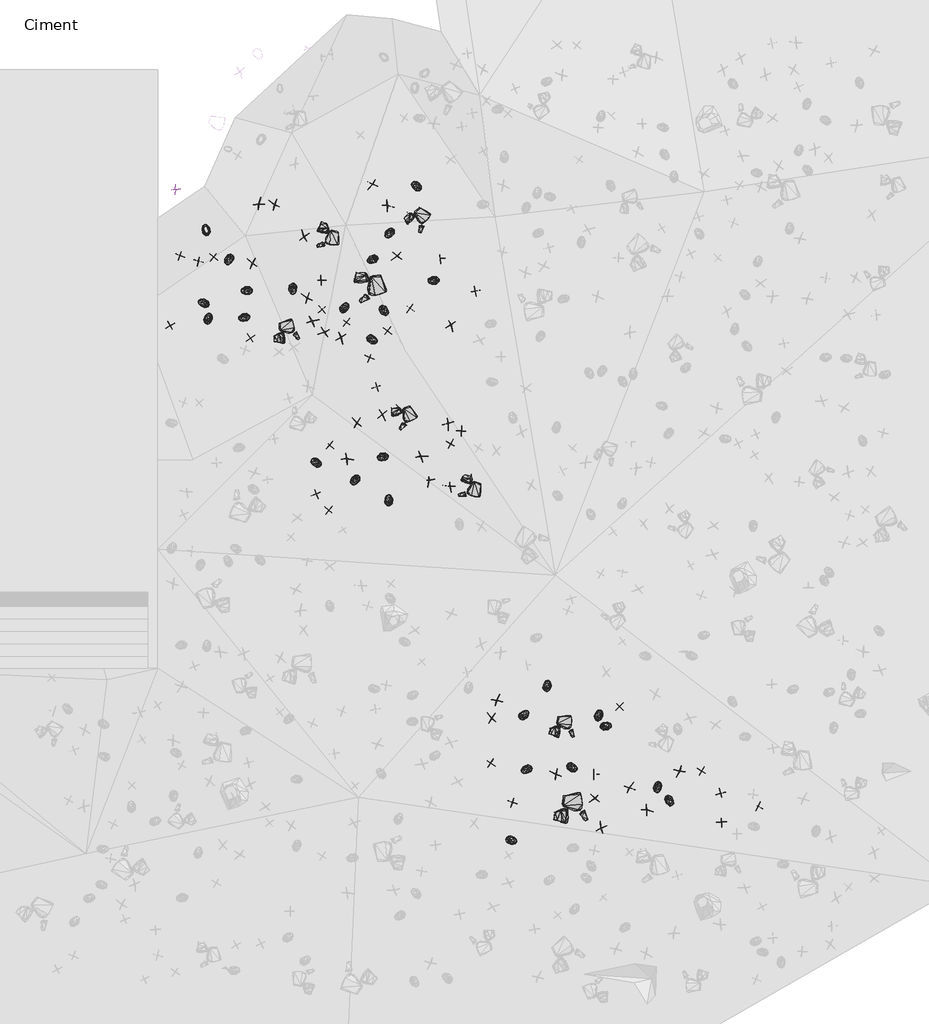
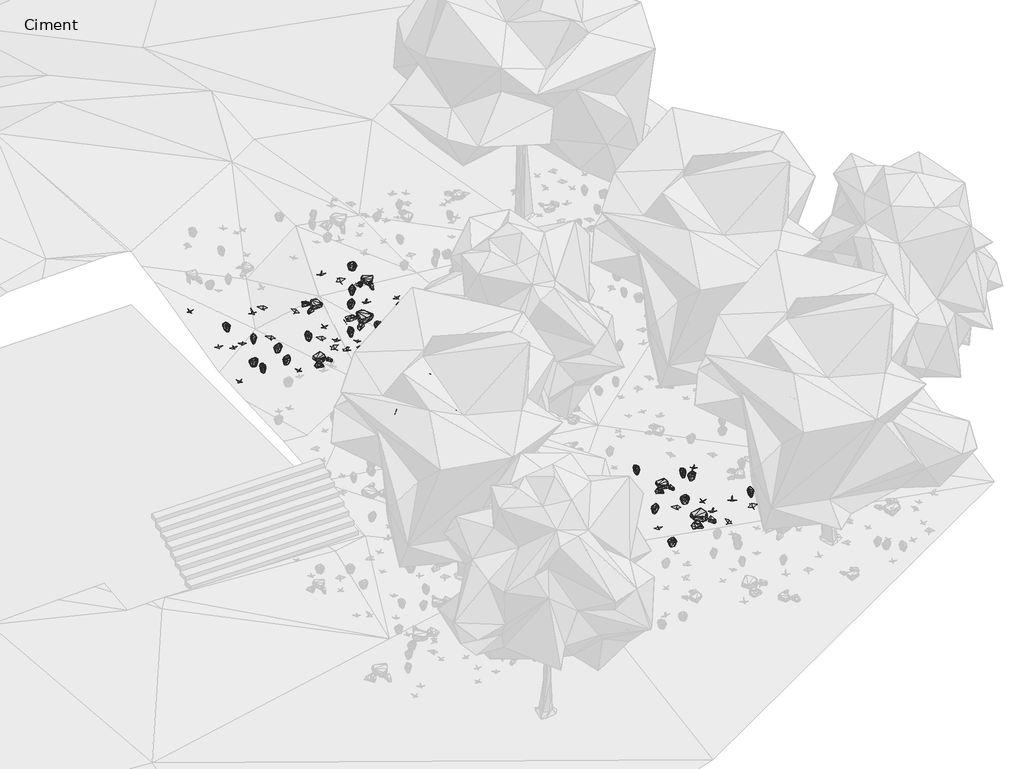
# One storey, part 16 of 30: 90 geographic elements.
"""IFC4 building model written with IfcOpenShell, lengths in millimetres."""

from ifc_helpers import new_model, si_unit, origin, place, context, project, spatial, transform, mapped, element, save
from components import enscape_assetdefinition_bush_025_fern_enscape_5718bf32, enscape_assetdefinition_bush_054_plant_09_version_2_enscape_7b546a12, enscape_assetdefinition_bush_062_plant_09_version_3_enscape_ccf8c8eb, enscape_assetdefinition_stone_013_group_enscape_516da325, enscape_assetdefinition_stone_013_group_enscape_db9b3e91

model = new_model("IFC4")

# Units and contexts
model_context = context("Model", 3, world=origin())
ifc_project = project(units=[si_unit("LENGTHUNIT", "METRE", prefix="MILLI")], contexts=[model_context])

# Site, building, storey
site = spatial("IfcSite", under=ifc_project)
building = spatial("IfcBuilding", under=site)
storey = spatial("IfcBuildingStorey", under=building, Name="Ciment", Elevation=-1500.0)

# Geographic elements
placement = place(None, origin())
enscape_assetdefinition_bush_025_fern_enscape_shape = enscape_assetdefinition_bush_025_fern_enscape_5718bf32(model_context)
element("IfcGeographicElement", 1, ObjectType="Enscape AssetDefinition - Bush 025 Fern : Enscape AssetDefinition - Bush 025 Fern", at=placement, inside=storey, context=model_context, shape_type="MappedRepresentation", body=[
    mapped(enscape_assetdefinition_bush_025_fern_enscape_shape, transform((10016.7827606, -1964.5595551, -765.6151056), x_axis=(-0.38445639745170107, -0.9231431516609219, 0.0), y_axis=(0.9231431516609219, -0.38445639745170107, 0.0), z_axis=(0.0, 0.0, 1.0))),
])
element("IfcGeographicElement", 2, ObjectType="Enscape AssetDefinition - Bush 025 Fern : Enscape AssetDefinition - Bush 025 Fern", at=placement, inside=storey, context=model_context, shape_type="MappedRepresentation", body=[
    mapped(enscape_assetdefinition_bush_025_fern_enscape_shape, transform((17686.5139008, -12217.6494598, -2132.6255798), x_axis=(0.09281831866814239, 0.9956830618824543, 0.0), y_axis=(-0.9956830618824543, 0.09281831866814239, 0.0), z_axis=(0.0, 0.0, 1.0))),
])
element("IfcGeographicElement", 3, ObjectType="Enscape AssetDefinition - Bush 025 Fern : Enscape AssetDefinition - Bush 025 Fern", at=placement, inside=storey, context=model_context, shape_type="MappedRepresentation", body=[
    mapped(enscape_assetdefinition_bush_025_fern_enscape_shape, transform((9470.8423615, -1239.1834259, -558.8148832), x_axis=(-0.35759758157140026, 0.9338757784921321, 0.0), y_axis=(-0.9338757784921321, -0.35759758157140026, 0.0), z_axis=(0.0, 0.0, 1.0))),
])
element("IfcGeographicElement", 4, ObjectType="Enscape AssetDefinition - Bush 025 Fern : Enscape AssetDefinition - Bush 025 Fern", at=placement, inside=storey, context=model_context, shape_type="MappedRepresentation", body=[
    mapped(enscape_assetdefinition_bush_025_fern_enscape_shape, transform((20619.0090179, -14994.1196442, -2462.1767998), x_axis=(0.5860406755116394, -0.8102816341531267, 0.0), y_axis=(0.8102816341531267, 0.5860406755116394, 0.0), z_axis=(0.0, 0.0, 1.0))),
])
element("IfcGeographicElement", 5, ObjectType="Enscape AssetDefinition - Bush 025 Fern : Enscape AssetDefinition - Bush 025 Fern", at=placement, inside=storey, context=model_context, shape_type="MappedRepresentation", body=[
    mapped(enscape_assetdefinition_bush_025_fern_enscape_shape, transform((13878.0612946, -1331.905365, -671.5577841), x_axis=(-0.5221447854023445, -0.8528568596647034, 0.0), y_axis=(0.8528568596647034, -0.5221447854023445, 0.0), z_axis=(0.0, 0.0, 1.0))),
])
element("IfcGeographicElement", 6, ObjectType="Enscape AssetDefinition - Bush 025 Fern : Enscape AssetDefinition - Bush 025 Fern", at=placement, inside=storey, context=model_context, shape_type="MappedRepresentation", body=[
    mapped(enscape_assetdefinition_bush_025_fern_enscape_shape, transform((11556.7264557, -2672.2145081, -778.2021761), x_axis=(0.13920330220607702, -0.9902638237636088, 0.0), y_axis=(0.9902638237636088, 0.13920330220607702, 0.0), z_axis=(0.0, 0.0, 1.0))),
])
element("IfcGeographicElement", 7, ObjectType="Enscape AssetDefinition - Bush 025 Fern : Enscape AssetDefinition - Bush 025 Fern", at=placement, inside=storey, context=model_context, shape_type="MappedRepresentation", body=[
    mapped(enscape_assetdefinition_bush_025_fern_enscape_shape, transform((12116.2090302, -6842.8611755, -1207.5036764), x_axis=(-0.9063901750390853, 0.4224415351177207, 0.0), y_axis=(-0.4224415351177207, -0.9063901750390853, 0.0), z_axis=(0.0, 0.0, 1.0))),
])
element("IfcGeographicElement", 8, ObjectType="Enscape AssetDefinition - Bush 025 Fern : Enscape AssetDefinition - Bush 025 Fern", at=placement, inside=storey, context=model_context, shape_type="MappedRepresentation", body=[
    mapped(enscape_assetdefinition_bush_025_fern_enscape_shape, transform((13754.4879913, -3197.7136135, -843.0160284), x_axis=(0.7146178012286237, -0.6995151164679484, 0.0), y_axis=(0.6995151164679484, 0.7146178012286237, 0.0), z_axis=(0.0, 0.0, 1.0))),
])
element("IfcGeographicElement", 9, ObjectType="Enscape AssetDefinition - Bush 025 Fern : Enscape AssetDefinition - Bush 025 Fern", at=placement, inside=storey, context=model_context, shape_type="MappedRepresentation", body=[
    mapped(enscape_assetdefinition_bush_025_fern_enscape_shape, transform((17176.908493, -14231.2450409, -2210.5765343), x_axis=(-0.8233271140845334, -0.5675671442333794, 0.0), y_axis=(0.5675671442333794, -0.8233271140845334, 0.0), z_axis=(0.0, 0.0, 1.0))),
])
element("IfcGeographicElement", 10, ObjectType="Enscape AssetDefinition - Bush 025 Fern : Enscape AssetDefinition - Bush 025 Fern", at=placement, inside=storey, context=model_context, shape_type="MappedRepresentation", body=[
    mapped(enscape_assetdefinition_bush_025_fern_enscape_shape, transform((13469.3279266, -1958.5016966, -674.3084192), x_axis=(-0.8565467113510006, -0.5160695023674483, 0.0), y_axis=(0.5160695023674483, -0.8565467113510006, 0.0), z_axis=(0.0, 0.0, 1.0))),
])
element("IfcGeographicElement", 11, ObjectType="Enscape AssetDefinition - Bush 025 Fern : Enscape AssetDefinition - Bush 025 Fern", at=placement, inside=storey, context=model_context, shape_type="MappedRepresentation", body=[
    mapped(enscape_assetdefinition_bush_025_fern_enscape_shape, transform((14938.577652, -2462.3088837, -937.5931025), x_axis=(-0.9737539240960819, -0.22760337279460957, 0.0), y_axis=(0.22760337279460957, -0.9737539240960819, 0.0), z_axis=(0.0, 0.0, 1.0))),
])
element("IfcGeographicElement", 12, ObjectType="Enscape AssetDefinition - Bush 025 Fern : Enscape AssetDefinition - Bush 025 Fern", at=placement, inside=storey, context=model_context, shape_type="MappedRepresentation", body=[
    mapped(enscape_assetdefinition_bush_025_fern_enscape_shape, transform((18925.9738922, -12927.4616241, -2246.7951775), x_axis=(0.19850457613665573, 0.9800999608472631, 0.0), y_axis=(-0.9800999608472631, 0.19850457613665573, 0.0), z_axis=(0.0, 0.0, 1.0))),
])
element("IfcGeographicElement", 13, ObjectType="Enscape AssetDefinition - Bush 025 Fern : Enscape AssetDefinition - Bush 025 Fern", at=placement, inside=storey, context=model_context, shape_type="MappedRepresentation", body=[
    mapped(enscape_assetdefinition_bush_025_fern_enscape_shape, transform((14533.2279205, -184.5550537, -695.3164339), x_axis=(-0.8508851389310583, 0.5253517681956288, 0.0), y_axis=(-0.5253517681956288, -0.8508851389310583, 0.0), z_axis=(0.0, 0.0, 1.0))),
])
element("IfcGeographicElement", 14, ObjectType="Enscape AssetDefinition - Bush 025 Fern : Enscape AssetDefinition - Bush 025 Fern", at=placement, inside=storey, context=model_context, shape_type="MappedRepresentation", body=[
    mapped(enscape_assetdefinition_bush_025_fern_enscape_shape, transform((13470.8271027, -3890.9647465, -917.8999662), x_axis=(0.9269066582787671, -0.37529194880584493, 0.0), y_axis=(0.37529194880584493, 0.9269066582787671, 0.0), z_axis=(0.0, 0.0, 1.0))),
])
element("IfcGeographicElement", 15, ObjectType="Enscape AssetDefinition - Bush 025 Fern : Enscape AssetDefinition - Bush 025 Fern", at=placement, inside=storey, context=model_context, shape_type="MappedRepresentation", body=[
    mapped(enscape_assetdefinition_bush_025_fern_enscape_shape, transform((16821.641922, -15942.3770905, -2302.3045063), x_axis=(0.9842999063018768, -0.1765040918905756, 0.0), y_axis=(0.1765040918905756, 0.9842999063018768, 0.0), z_axis=(0.0, 0.0, 1.0))),
])
element("IfcGeographicElement", 16, ObjectType="Enscape AssetDefinition - Bush 025 Fern : Enscape AssetDefinition - Bush 025 Fern", at=placement, inside=storey, context=model_context, shape_type="MappedRepresentation", body=[
    mapped(enscape_assetdefinition_bush_025_fern_enscape_shape, transform((19103.2848358, -13192.2512054, -2271.9707489), x_axis=(0.9592102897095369, 0.28269350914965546, 0.0), y_axis=(-0.28269350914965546, 0.9592102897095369, 0.0), z_axis=(0.0, 0.0, 1.0))),
])
element("IfcGeographicElement", 17, ObjectType="Enscape AssetDefinition - Bush 025 Fern : Enscape AssetDefinition - Bush 025 Fern", at=placement, inside=storey, context=model_context, shape_type="MappedRepresentation", body=[
    mapped(enscape_assetdefinition_bush_025_fern_enscape_shape, transform((10443.985939, -2705.1846981, -817.9252148), x_axis=(-0.9789633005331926, -0.20403640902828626, 0.0), y_axis=(0.20403640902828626, -0.9789633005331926, 0.0), z_axis=(0.0, 0.0, 1.0))),
])
element("IfcGeographicElement", 18, ObjectType="Enscape AssetDefinition - Bush 025 Fern : Enscape AssetDefinition - Bush 025 Fern", at=placement, inside=storey, context=model_context, shape_type="MappedRepresentation", body=[
    mapped(enscape_assetdefinition_bush_025_fern_enscape_shape, transform((18282.7339172, -14189.3482208, -2275.860548), x_axis=(0.9132288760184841, -0.40744695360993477, 0.0), y_axis=(0.40744695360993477, 0.9132288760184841, 0.0), z_axis=(0.0, 0.0, 1.0))),
])
element("IfcGeographicElement", 19, ObjectType="Enscape AssetDefinition - Bush 025 Fern : Enscape AssetDefinition - Bush 025 Fern", at=placement, inside=storey, context=model_context, shape_type="MappedRepresentation", body=[
    mapped(enscape_assetdefinition_bush_025_fern_enscape_shape, transform((13714.9600983, -6711.0843658, -1318.4001446), x_axis=(-0.9466021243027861, -0.32240412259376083, 0.0), y_axis=(0.32240412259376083, -0.9466021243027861, 0.0), z_axis=(0.0, 0.0, 1.0))),
])
element("IfcGeographicElement", 20, ObjectType="Enscape AssetDefinition - Bush 025 Fern : Enscape AssetDefinition - Bush 025 Fern", at=placement, inside=storey, context=model_context, shape_type="MappedRepresentation", body=[
    mapped(enscape_assetdefinition_bush_025_fern_enscape_shape, transform((12805.8414459, -3117.6567078, -767.7301168), x_axis=(0.47292923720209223, 0.8811004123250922, 0.0), y_axis=(-0.8811004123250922, 0.47292923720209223, 0.0), z_axis=(0.0, 0.0, 1.0))),
])
element("IfcGeographicElement", 21, ObjectType="Enscape AssetDefinition - Bush 025 Fern : Enscape AssetDefinition - Bush 025 Fern", at=placement, inside=storey, context=model_context, shape_type="MappedRepresentation", body=[
    mapped(enscape_assetdefinition_bush_025_fern_enscape_shape, transform((9527.2006989, -3379.4136047, -820.2050924), x_axis=(0.19123822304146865, 0.9815436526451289, 0.0), y_axis=(-0.9815436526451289, 0.19123822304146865, 0.0), z_axis=(0.0, 0.0, 1.0))),
])
element("IfcGeographicElement", 22, ObjectType="Enscape AssetDefinition - Bush 025 Fern : Enscape AssetDefinition - Bush 025 Fern", at=placement, inside=storey, context=model_context, shape_type="MappedRepresentation", body=[
    mapped(enscape_assetdefinition_bush_025_fern_enscape_shape, transform((13872.7893829, -7746.1342812, -1458.5523605), x_axis=(-0.13486933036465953, 0.9908633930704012, 0.0), y_axis=(-0.9908633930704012, -0.13486933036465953, 0.0), z_axis=(0.0, 0.0, 1.0))),
])
element("IfcGeographicElement", 23, ObjectType="Enscape AssetDefinition - Bush 025 Fern : Enscape AssetDefinition - Bush 025 Fern", at=placement, inside=storey, context=model_context, shape_type="MappedRepresentation", body=[
    mapped(enscape_assetdefinition_bush_025_fern_enscape_shape, transform((13050.2300262, -7270.2636719, -1334.4722986), x_axis=(-0.5542169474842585, -0.8323722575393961, 0.0), y_axis=(0.8323722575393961, -0.5542169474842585, 0.0), z_axis=(0.0, 0.0, 1.0))),
])
element("IfcGeographicElement", 24, ObjectType="Enscape AssetDefinition - Bush 025 Fern : Enscape AssetDefinition - Bush 025 Fern", at=placement, inside=storey, context=model_context, shape_type="MappedRepresentation", body=[
    mapped(enscape_assetdefinition_bush_025_fern_enscape_shape, transform((9411.4170074, -3004.5049191, -797.2145081), x_axis=(-0.9661915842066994, 0.25782517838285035, 0.0), y_axis=(-0.25782517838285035, -0.9661915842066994, 0.0), z_axis=(0.0, 0.0, 1.0))),
])
element("IfcGeographicElement", 25, ObjectType="Enscape AssetDefinition - Bush 025 Fern : Enscape AssetDefinition - Bush 025 Fern", at=placement, inside=storey, context=model_context, shape_type="MappedRepresentation", body=[
    mapped(enscape_assetdefinition_bush_025_fern_enscape_shape, transform((10379.4841766, -3354.6352386, -848.5469818), x_axis=(-0.9400152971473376, -0.3411322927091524, 0.0), y_axis=(0.3411322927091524, -0.9400152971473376, 0.0), z_axis=(0.0, 0.0, 1.0))),
])
element("IfcGeographicElement", 26, ObjectType="Enscape AssetDefinition - Bush 025 Fern : Enscape AssetDefinition - Bush 025 Fern", at=placement, inside=storey, context=model_context, shape_type="MappedRepresentation", body=[
    mapped(enscape_assetdefinition_bush_025_fern_enscape_shape, transform((17128.4275055, -12920.3691483, -2136.6004944), x_axis=(0.6698688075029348, 0.7424794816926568, 0.0), y_axis=(-0.7424794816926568, 0.6698688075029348, 0.0), z_axis=(0.0, 0.0, 1.0))),
])
element("IfcGeographicElement", 27, ObjectType="Enscape AssetDefinition - Bush 025 Fern : Enscape AssetDefinition - Bush 025 Fern", at=placement, inside=storey, context=model_context, shape_type="MappedRepresentation", body=[
    mapped(enscape_assetdefinition_bush_025_fern_enscape_shape, transform((20331.6364288, -14663.9909744, -2426.7377853), x_axis=(-0.11735260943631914, -0.9930903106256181, 0.0), y_axis=(0.9930903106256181, -0.11735260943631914, 0.0), z_axis=(0.0, 0.0, 1.0))),
])
enscape_assetdefinition_bush_054_plant_09_version_2_enscape_shape = enscape_assetdefinition_bush_054_plant_09_version_2_enscape_7b546a12(model_context)
element("IfcGeographicElement", 28, ObjectType="Enscape AssetDefinition - Bush 054 Plant 09, Version 2 : Enscape AssetDefinition - Bush 054 Plant 09, Version 2", at=placement, inside=storey, context=model_context, shape_type="MappedRepresentation", body=[
    mapped(enscape_assetdefinition_bush_054_plant_09_version_2_enscape_shape, transform((14384.759903, -3134.7694397, -923.8218069), x_axis=(-0.8412617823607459, 0.5406279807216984, 0.0), y_axis=(-0.5406279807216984, -0.8412617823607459, 0.0), z_axis=(0.0, 0.0, 1.0))),
])
element("IfcGeographicElement", 29, ObjectType="Enscape AssetDefinition - Bush 054 Plant 09, Version 2 : Enscape AssetDefinition - Bush 054 Plant 09, Version 2", at=placement, inside=storey, context=model_context, shape_type="MappedRepresentation", body=[
    mapped(enscape_assetdefinition_bush_054_plant_09_version_2_enscape_shape, transform((9292.8981781, -2002.4871826, -713.7041092), x_axis=(0.1669795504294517, 0.9859603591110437, 0.0), y_axis=(-0.9859603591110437, 0.1669795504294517, 0.0), z_axis=(0.0, 0.0, 1.0))),
])
element("IfcGeographicElement", 30, ObjectType="Enscape AssetDefinition - Bush 054 Plant 09, Version 2 : Enscape AssetDefinition - Bush 054 Plant 09, Version 2", at=placement, inside=storey, context=model_context, shape_type="MappedRepresentation", body=[
    mapped(enscape_assetdefinition_bush_054_plant_09_version_2_enscape_shape, transform((8601.4499664, -3552.4806976, -796.9938517), x_axis=(0.5575492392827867, -0.8301438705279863, 0.0), y_axis=(0.8301438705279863, 0.5575492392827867, 0.0), z_axis=(0.0, 0.0, 1.0))),
])
element("IfcGeographicElement", 31, ObjectType="Enscape AssetDefinition - Bush 054 Plant 09, Version 2 : Enscape AssetDefinition - Bush 054 Plant 09, Version 2", at=placement, inside=storey, context=model_context, shape_type="MappedRepresentation", body=[
    mapped(enscape_assetdefinition_bush_054_plant_09_version_2_enscape_shape, transform((16849.3824005, -15029.8557281, -2233.8314056), x_axis=(0.26674330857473, 0.963767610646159, 0.0), y_axis=(-0.963767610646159, 0.26674330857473, 0.0), z_axis=(0.0, 0.0, 1.0))),
])
element("IfcGeographicElement", 32, ObjectType="Enscape AssetDefinition - Bush 054 Plant 09, Version 2 : Enscape AssetDefinition - Bush 054 Plant 09, Version 2", at=placement, inside=storey, context=model_context, shape_type="MappedRepresentation", body=[
    mapped(enscape_assetdefinition_bush_054_plant_09_version_2_enscape_shape, transform((21393.8045502, -14274.1336823, -2470.5042839), x_axis=(0.8868748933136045, -0.46200965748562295, 0.0), y_axis=(0.46200965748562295, 0.8868748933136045, 0.0), z_axis=(0.0, 0.0, 1.0))),
])
element("IfcGeographicElement", 33, ObjectType="Enscape AssetDefinition - Bush 054 Plant 09, Version 2 : Enscape AssetDefinition - Bush 054 Plant 09, Version 2", at=placement, inside=storey, context=model_context, shape_type="MappedRepresentation", body=[
    mapped(enscape_assetdefinition_bush_054_plant_09_version_2_enscape_shape, transform((12450.63591, -6427.8202057, -1182.9328537), x_axis=(-0.7751164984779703, 0.6318183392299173, 0.0), y_axis=(-0.6318183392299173, -0.7751164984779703, 0.0), z_axis=(0.0, 0.0, 1.0))),
])
element("IfcGeographicElement", 34, ObjectType="Enscape AssetDefinition - Bush 054 Plant 09, Version 2 : Enscape AssetDefinition - Bush 054 Plant 09, Version 2", at=placement, inside=storey, context=model_context, shape_type="MappedRepresentation", body=[
    mapped(enscape_assetdefinition_bush_054_plant_09_version_2_enscape_shape, transform((18808.7329865, -14349.6341705, -2316.6761398), x_axis=(-0.9981650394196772, -0.06055207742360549, 0.0), y_axis=(0.06055207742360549, -0.9981650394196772, 0.0), z_axis=(0.0, 0.0, 1.0))),
])
element("IfcGeographicElement", 35, ObjectType="Enscape AssetDefinition - Bush 054 Plant 09, Version 2 : Enscape AssetDefinition - Bush 054 Plant 09, Version 2", at=placement, inside=storey, context=model_context, shape_type="MappedRepresentation", body=[
    mapped(enscape_assetdefinition_bush_054_plant_09_version_2_enscape_shape, transform((12262.052536, -3168.8404083, -764.7322416), x_axis=(0.7185125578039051, 0.6955139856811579, 0.0), y_axis=(-0.6955139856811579, 0.7185125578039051, 0.0), z_axis=(0.0, 0.0, 1.0))),
])
element("IfcGeographicElement", 36, ObjectType="Enscape AssetDefinition - Bush 054 Plant 09, Version 2 : Enscape AssetDefinition - Bush 054 Plant 09, Version 2", at=placement, inside=storey, context=model_context, shape_type="MappedRepresentation", body=[
    mapped(enscape_assetdefinition_bush_054_plant_09_version_2_enscape_shape, transform((15351.4652252, -6400.4421234, -1391.7546272), x_axis=(0.8992081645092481, -0.4375210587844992, 0.0), y_axis=(0.4375210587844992, 0.8992081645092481, 0.0), z_axis=(0.0, 0.0, 1.0))),
])
element("IfcGeographicElement", 37, ObjectType="Enscape AssetDefinition - Bush 054 Plant 09, Version 2 : Enscape AssetDefinition - Bush 054 Plant 09, Version 2", at=placement, inside=storey, context=model_context, shape_type="MappedRepresentation", body=[
    mapped(enscape_assetdefinition_bush_054_plant_09_version_2_enscape_shape, transform((13411.7412567, -4319.978714, -972.1491337), x_axis=(0.30507378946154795, 0.9523287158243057, 0.0), y_axis=(-0.9523287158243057, 0.30507378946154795, 0.0), z_axis=(0.0, 0.0, 1.0))),
])
element("IfcGeographicElement", 38, ObjectType="Enscape AssetDefinition - Bush 054 Plant 09, Version 2 : Enscape AssetDefinition - Bush 054 Plant 09, Version 2", at=placement, inside=storey, context=model_context, shape_type="MappedRepresentation", body=[
    mapped(enscape_assetdefinition_bush_054_plant_09_version_2_enscape_shape, transform((10534.3074799, -3854.9556732, -879.2390823), x_axis=(0.6236093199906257, -0.7817361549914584, 0.0), y_axis=(0.7817361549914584, 0.6236093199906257, 0.0), z_axis=(0.0, 0.0, 1.0))),
])
element("IfcGeographicElement", 39, ObjectType="Enscape AssetDefinition - Bush 054 Plant 09, Version 2 : Enscape AssetDefinition - Bush 054 Plant 09, Version 2", at=placement, inside=storey, context=model_context, shape_type="MappedRepresentation", body=[
    mapped(enscape_assetdefinition_bush_054_plant_09_version_2_enscape_shape, transform((12118.6733246, -7604.9385071, -1301.648736), x_axis=(0.917904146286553, 0.396802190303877, 0.0), y_axis=(-0.396802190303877, 0.917904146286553, 0.0), z_axis=(0.0, 0.0, 1.0))),
])
element("IfcGeographicElement", 40, ObjectType="Enscape AssetDefinition - Bush 054 Plant 09, Version 2 : Enscape AssetDefinition - Bush 054 Plant 09, Version 2", at=placement, inside=storey, context=model_context, shape_type="MappedRepresentation", body=[
    mapped(enscape_assetdefinition_bush_054_plant_09_version_2_enscape_shape, transform((12419.0273285, -7995.1610565, -1373.6412525), x_axis=(0.8092234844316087, -0.5875009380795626, 0.0), y_axis=(0.5875009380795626, 0.8092234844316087, 0.0), z_axis=(0.0, 0.0, 1.0))),
])
element("IfcGeographicElement", 41, ObjectType="Enscape AssetDefinition - Bush 054 Plant 09, Version 2 : Enscape AssetDefinition - Bush 054 Plant 09, Version 2", at=placement, inside=storey, context=model_context, shape_type="MappedRepresentation", body=[
    mapped(enscape_assetdefinition_bush_054_plant_09_version_2_enscape_shape, transform((22764.8944855, -15119.9855804, -2600.0843048), x_axis=(-0.9055633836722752, 0.42421098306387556, 0.0), y_axis=(-0.42421098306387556, -0.9055633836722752, 0.0), z_axis=(0.0, 0.0, 1.0))),
])
element("IfcGeographicElement", 42, ObjectType="Enscape AssetDefinition - Bush 054 Plant 09, Version 2 : Enscape AssetDefinition - Bush 054 Plant 09, Version 2", at=placement, inside=storey, context=model_context, shape_type="MappedRepresentation", body=[
    mapped(enscape_assetdefinition_bush_054_plant_09_version_2_enscape_shape, transform((15111.0286713, -1942.779541, -911.1434221), x_axis=(-0.1584558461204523, 0.9873660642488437, 0.0), y_axis=(-0.9873660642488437, -0.1584558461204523, 0.0), z_axis=(0.0, 0.0, 1.0))),
])
element("IfcGeographicElement", 43, ObjectType="Enscape AssetDefinition - Bush 054 Plant 09, Version 2 : Enscape AssetDefinition - Bush 054 Plant 09, Version 2", at=placement, inside=storey, context=model_context, shape_type="MappedRepresentation", body=[
    mapped(enscape_assetdefinition_bush_054_plant_09_version_2_enscape_shape, transform((9655.3478241, -1906.2212706, -750.1125336), x_axis=(0.5704808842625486, 0.8213108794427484, 0.0), y_axis=(-0.8213108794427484, 0.5704808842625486, 0.0), z_axis=(0.0, 0.0, 1.0))),
])
element("IfcGeographicElement", 44, ObjectType="Enscape AssetDefinition - Bush 054 Plant 09, Version 2 : Enscape AssetDefinition - Bush 054 Plant 09, Version 2", at=placement, inside=storey, context=model_context, shape_type="MappedRepresentation", body=[
    mapped(enscape_assetdefinition_bush_054_plant_09_version_2_enscape_shape, transform((21850.5649567, -14804.7542572, -2527.1525383), x_axis=(0.3183138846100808, -0.9479853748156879, 0.0), y_axis=(0.9479853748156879, 0.3183138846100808, 0.0), z_axis=(0.0, 0.0, 1.0))),
])
element("IfcGeographicElement", 45, ObjectType="Enscape AssetDefinition - Bush 054 Plant 09, Version 2 : Enscape AssetDefinition - Bush 054 Plant 09, Version 2", at=placement, inside=storey, context=model_context, shape_type="MappedRepresentation", body=[
    mapped(enscape_assetdefinition_bush_054_plant_09_version_2_enscape_shape, transform((8843.9426422, -1866.8632507, -606.5135002), x_axis=(0.28563195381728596, 0.9583393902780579, 0.0), y_axis=(-0.9583393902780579, 0.28563195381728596, 0.0), z_axis=(0.0, 0.0, 1.0))),
])
element("IfcGeographicElement", 46, ObjectType="Enscape AssetDefinition - Bush 054 Plant 09, Version 2 : Enscape AssetDefinition - Bush 054 Plant 09, Version 2", at=placement, inside=storey, context=model_context, shape_type="MappedRepresentation", body=[
    mapped(enscape_assetdefinition_bush_054_plant_09_version_2_enscape_shape, transform((16327.3830414, -14080.991745, -2150.5408287), x_axis=(-0.8599408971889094, 0.5103936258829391, 0.0), y_axis=(-0.5103936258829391, -0.8599408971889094, 0.0), z_axis=(0.0, 0.0, 1.0))),
])
element("IfcGeographicElement", 47, ObjectType="Enscape AssetDefinition - Bush 054 Plant 09, Version 2 : Enscape AssetDefinition - Bush 054 Plant 09, Version 2", at=placement, inside=storey, context=model_context, shape_type="MappedRepresentation", body=[
    mapped(enscape_assetdefinition_bush_054_plant_09_version_2_enscape_shape, transform((13578.0544281, -5026.3729095, -1080.4735422), x_axis=(0.9399688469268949, 0.34126026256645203, 0.0), y_axis=(-0.34126026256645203, 0.9399688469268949, 0.0), z_axis=(0.0, 0.0, 1.0))),
])
element("IfcGeographicElement", 48, ObjectType="Enscape AssetDefinition - Bush 054 Plant 09, Version 2 : Enscape AssetDefinition - Bush 054 Plant 09, Version 2", at=placement, inside=storey, context=model_context, shape_type="MappedRepresentation", body=[
    mapped(enscape_assetdefinition_bush_054_plant_09_version_2_enscape_shape, transform((19428.6518097, -12718.3561325, -2266.1747932), x_axis=(-0.7379910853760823, 0.674810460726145, 0.0), y_axis=(-0.674810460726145, -0.7379910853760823, 0.0), z_axis=(0.0, 0.0, 1.0))),
])
element("IfcGeographicElement", 49, ObjectType="Enscape AssetDefinition - Bush 054 Plant 09, Version 2 : Enscape AssetDefinition - Bush 054 Plant 09, Version 2", at=placement, inside=storey, context=model_context, shape_type="MappedRepresentation", body=[
    mapped(enscape_assetdefinition_bush_054_plant_09_version_2_enscape_shape, transform((8735.7501984, -270.608902, -202.9752731), x_axis=(-0.9978461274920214, -0.0655980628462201, 0.0), y_axis=(0.0655980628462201, -0.9978461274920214, 0.0), z_axis=(0.0, 0.0, 1.0))),
])
element("IfcGeographicElement", 50, ObjectType="Enscape AssetDefinition - Bush 054 Plant 09, Version 2 : Enscape AssetDefinition - Bush 054 Plant 09, Version 2", at=placement, inside=storey, context=model_context, shape_type="MappedRepresentation", body=[
    mapped(enscape_assetdefinition_bush_054_plant_09_version_2_enscape_shape, transform((13836.4124298, -3672.1363068, -913.0061865), x_axis=(-0.5693705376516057, -0.8220810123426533, 0.0), y_axis=(0.8220810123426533, -0.5693705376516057, 0.0), z_axis=(0.0, 0.0, 1.0))),
])
element("IfcGeographicElement", 51, ObjectType="Enscape AssetDefinition - Bush 054 Plant 09, Version 2 : Enscape AssetDefinition - Bush 054 Plant 09, Version 2", at=placement, inside=storey, context=model_context, shape_type="MappedRepresentation", body=[
    mapped(enscape_assetdefinition_bush_054_plant_09_version_2_enscape_shape, transform((15952.2151947, -2716.3944244, -1103.0435562), x_axis=(-0.9735967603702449, -0.22827472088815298, 0.0), y_axis=(0.22827472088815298, -0.9735967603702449, 0.0), z_axis=(0.0, 0.0, 1.0))),
])
element("IfcGeographicElement", 52, ObjectType="Enscape AssetDefinition - Bush 054 Plant 09, Version 2 : Enscape AssetDefinition - Bush 054 Plant 09, Version 2", at=placement, inside=storey, context=model_context, shape_type="MappedRepresentation", body=[
    mapped(enscape_assetdefinition_bush_054_plant_09_version_2_enscape_shape, transform((12243.5407639, -2455.0688267, -692.1156645), x_axis=(-0.9943076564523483, -0.10654709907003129, 0.0), y_axis=(0.10654709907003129, -0.9943076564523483, 0.0), z_axis=(0.0, 0.0, 1.0))),
])
element("IfcGeographicElement", 53, ObjectType="Enscape AssetDefinition - Bush 054 Plant 09, Version 2 : Enscape AssetDefinition - Bush 054 Plant 09, Version 2", at=placement, inside=storey, context=model_context, shape_type="MappedRepresentation", body=[
    mapped(enscape_assetdefinition_bush_054_plant_09_version_2_enscape_shape, transform((15612.5278473, -6093.4829712, -1370.4594374), x_axis=(0.999920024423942, 0.012646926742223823, 0.0), y_axis=(-0.012646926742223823, 0.999920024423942, 0.0), z_axis=(0.0, 0.0, 1.0))),
])
element("IfcGeographicElement", 54, ObjectType="Enscape AssetDefinition - Bush 054 Plant 09, Version 2 : Enscape AssetDefinition - Bush 054 Plant 09, Version 2", at=placement, inside=storey, context=model_context, shape_type="MappedRepresentation", body=[
    mapped(enscape_assetdefinition_bush_054_plant_09_version_2_enscape_shape, transform((12841.8369293, -3474.3976593, -818.6204433), x_axis=(0.8096894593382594, -0.5868585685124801, 0.0), y_axis=(0.5868585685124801, 0.8096894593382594, 0.0), z_axis=(0.0, 0.0, 1.0))),
])
element("IfcGeographicElement", 55, ObjectType="Enscape AssetDefinition - Bush 054 Plant 09, Version 2 : Enscape AssetDefinition - Bush 054 Plant 09, Version 2", at=placement, inside=storey, context=model_context, shape_type="MappedRepresentation", body=[
    mapped(enscape_assetdefinition_bush_054_plant_09_version_2_enscape_shape, transform((21881.6890717, -15507.3108673, -2567.1129227), x_axis=(-0.09325552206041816, 0.9956422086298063, 0.0), y_axis=(-0.9956422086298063, -0.09325552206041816, 0.0), z_axis=(0.0, 0.0, 1.0))),
])
enscape_assetdefinition_bush_062_plant_09_version_3_enscape_shape = enscape_assetdefinition_bush_062_plant_09_version_3_enscape_ccf8c8eb(model_context)
element("IfcGeographicElement", 56, ObjectType="Enscape AssetDefinition - Bush 062 Plant 09, Version 3 : Enscape AssetDefinition - Bush 062 Plant 09, Version 3", at=placement, inside=storey, context=model_context, shape_type="MappedRepresentation", body=[
    mapped(enscape_assetdefinition_bush_062_plant_09_version_3_enscape_shape, transform((18976.0723114, -15635.4160309, -2396.5528011), x_axis=(0.8596368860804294, 0.5109054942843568, 0.0), y_axis=(-0.5109054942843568, 0.8596368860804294, 0.0), z_axis=(0.0, 0.0, 1.0))),
])
element("IfcGeographicElement", 57, ObjectType="Enscape AssetDefinition - Bush 062 Plant 09, Version 3 : Enscape AssetDefinition - Bush 062 Plant 09, Version 3", at=placement, inside=storey, context=model_context, shape_type="MappedRepresentation", body=[
    mapped(enscape_assetdefinition_bush_062_plant_09_version_3_enscape_shape, transform((13094.701767, -5883.3236694, -1165.1896238), x_axis=(0.41559504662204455, 0.9095497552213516, 0.0), y_axis=(-0.9095497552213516, 0.41559504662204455, 0.0), z_axis=(0.0, 0.0, 1.0))),
])
element("IfcGeographicElement", 58, ObjectType="Enscape AssetDefinition - Bush 062 Plant 09, Version 3 : Enscape AssetDefinition - Bush 062 Plant 09, Version 3", at=placement, inside=storey, context=model_context, shape_type="MappedRepresentation", body=[
    mapped(enscape_assetdefinition_bush_062_plant_09_version_3_enscape_shape, transform((12869.0128326, -6755.8689117, -1256.6462755), x_axis=(0.2687530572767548, -0.9632091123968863, 0.0), y_axis=(0.9632091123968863, 0.2687530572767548, 0.0), z_axis=(0.0, 0.0, 1.0))),
])
element("IfcGeographicElement", 59, ObjectType="Enscape AssetDefinition - Bush 062 Plant 09, Version 3 : Enscape AssetDefinition - Bush 062 Plant 09, Version 3", at=placement, inside=storey, context=model_context, shape_type="MappedRepresentation", body=[
    mapped(enscape_assetdefinition_bush_062_plant_09_version_3_enscape_shape, transform((12034.7995758, -3436.4550114, -813.6024475), x_axis=(0.5315404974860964, -0.8470328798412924, 0.0), y_axis=(0.8470328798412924, 0.5315404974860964, 0.0), z_axis=(0.0, 0.0, 1.0))),
])
element("IfcGeographicElement", 60, ObjectType="Enscape AssetDefinition - Bush 062 Plant 09, Version 3 : Enscape AssetDefinition - Bush 062 Plant 09, Version 3", at=placement, inside=storey, context=model_context, shape_type="MappedRepresentation", body=[
    mapped(enscape_assetdefinition_bush_062_plant_09_version_3_enscape_shape, transform((15328.3061981, -7423.7918854, -1531.0635567), x_axis=(-0.24579430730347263, 0.9693220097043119, 0.0), y_axis=(-0.9693220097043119, -0.24579430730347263, 0.0), z_axis=(0.0, 0.0, 1.0))),
])
element("IfcGeographicElement", 61, ObjectType="Enscape AssetDefinition - Bush 062 Plant 09, Version 3 : Enscape AssetDefinition - Bush 062 Plant 09, Version 3", at=placement, inside=storey, context=model_context, shape_type="MappedRepresentation", body=[
    mapped(enscape_assetdefinition_bush_062_plant_09_version_3_enscape_shape, transform((20862.7185822, -14284.7452164, -2438.6353493), x_axis=(-0.9952426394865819, 0.09742735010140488, 0.0), y_axis=(-0.09742735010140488, -0.9952426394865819, 0.0), z_axis=(0.0, 0.0, 1.0))),
])
element("IfcGeographicElement", 62, ObjectType="Enscape AssetDefinition - Bush 062 Plant 09, Version 3 : Enscape AssetDefinition - Bush 062 Plant 09, Version 3", at=placement, inside=storey, context=model_context, shape_type="MappedRepresentation", body=[
    mapped(enscape_assetdefinition_bush_062_plant_09_version_3_enscape_shape, transform((15298.6698151, -5918.9987183, -1321.8313456), x_axis=(-0.92766457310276, -0.3734145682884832, 0.0), y_axis=(0.3734145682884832, -0.92766457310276, 0.0), z_axis=(0.0, 0.0, 1.0))),
])
element("IfcGeographicElement", 63, ObjectType="Enscape AssetDefinition - Bush 062 Plant 09, Version 3 : Enscape AssetDefinition - Bush 062 Plant 09, Version 3", at=placement, inside=storey, context=model_context, shape_type="MappedRepresentation", body=[
    mapped(enscape_assetdefinition_bush_062_plant_09_version_3_enscape_shape, transform((14061.1286163, -1886.0549927, -753.0640364), x_axis=(-0.8517305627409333, 0.5239800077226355, 0.0), y_axis=(-0.5239800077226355, -0.8517305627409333, 0.0), z_axis=(0.0, 0.0, 1.0))),
])
element("IfcGeographicElement", 64, ObjectType="Enscape AssetDefinition - Bush 062 Plant 09, Version 3 : Enscape AssetDefinition - Bush 062 Plant 09, Version 3", at=placement, inside=storey, context=model_context, shape_type="MappedRepresentation", body=[
    mapped(enscape_assetdefinition_bush_062_plant_09_version_3_enscape_shape, transform((16473.1311798, -12560.377121, -2077.067852), x_axis=(0.9989810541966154, -0.045131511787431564, 0.0), y_axis=(0.045131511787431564, 0.9989810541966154, 0.0), z_axis=(0.0, 0.0, 1.0))),
])
element("IfcGeographicElement", 65, ObjectType="Enscape AssetDefinition - Bush 062 Plant 09, Version 3 : Enscape AssetDefinition - Bush 062 Plant 09, Version 3", at=placement, inside=storey, context=model_context, shape_type="MappedRepresentation", body=[
    mapped(enscape_assetdefinition_bush_062_plant_09_version_3_enscape_shape, transform((15368.4244156, -3545.7305908, -1100.6301641), x_axis=(-0.7772850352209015, -0.6291486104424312, 0.0), y_axis=(0.6291486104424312, -0.7772850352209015, 0.0), z_axis=(0.0, 0.0, 1.0))),
])
element("IfcGeographicElement", 66, ObjectType="Enscape AssetDefinition - Bush 062 Plant 09, Version 3 : Enscape AssetDefinition - Bush 062 Plant 09, Version 3", at=placement, inside=storey, context=model_context, shape_type="MappedRepresentation", body=[
    mapped(enscape_assetdefinition_bush_062_plant_09_version_3_enscape_shape, transform((13850.1224518, -661.3197327, -621.6084957), x_axis=(0.14959668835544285, -0.9887471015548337, 0.0), y_axis=(0.9887471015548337, 0.14959668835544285, 0.0), z_axis=(0.0, 0.0, 1.0))),
])
element("IfcGeographicElement", 67, ObjectType="Enscape AssetDefinition - Bush 062 Plant 09, Version 3 : Enscape AssetDefinition - Bush 062 Plant 09, Version 3", at=placement, inside=storey, context=model_context, shape_type="MappedRepresentation", body=[
    mapped(enscape_assetdefinition_bush_062_plant_09_version_3_enscape_shape, transform((20085.3061676, -15207.7159882, -2441.1449432), x_axis=(0.15173351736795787, -0.9884214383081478, 0.0), y_axis=(0.9884214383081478, 0.15173351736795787, 0.0), z_axis=(0.0, 0.0, 1.0))),
])
element("IfcGeographicElement", 68, ObjectType="Enscape AssetDefinition - Bush 062 Plant 09, Version 3 : Enscape AssetDefinition - Bush 062 Plant 09, Version 3", at=placement, inside=storey, context=model_context, shape_type="MappedRepresentation", body=[
    mapped(enscape_assetdefinition_bush_062_plant_09_version_3_enscape_shape, transform((12721.1666107, -3846.4202881, -860.9483242), x_axis=(-0.8066551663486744, -0.5910223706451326, 0.0), y_axis=(0.5910223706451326, -0.8066551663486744, 0.0), z_axis=(0.0, 0.0, 1.0))),
])
element("IfcGeographicElement", 69, ObjectType="Enscape AssetDefinition - Bush 062 Plant 09, Version 3 : Enscape AssetDefinition - Bush 062 Plant 09, Version 3", at=placement, inside=storey, context=model_context, shape_type="MappedRepresentation", body=[
    mapped(enscape_assetdefinition_bush_062_plant_09_version_3_enscape_shape, transform((13722.2356796, -5699.8615265, -1183.131218), x_axis=(-0.685443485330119, -0.7281258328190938, 0.0), y_axis=(0.7281258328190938, -0.685443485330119, 0.0), z_axis=(0.0, 0.0, 1.0))),
])
element("IfcGeographicElement", 70, ObjectType="Enscape AssetDefinition - Bush 062 Plant 09, Version 3 : Enscape AssetDefinition - Bush 062 Plant 09, Version 3", at=placement, inside=storey, context=model_context, shape_type="MappedRepresentation", body=[
    mapped(enscape_assetdefinition_bush_062_plant_09_version_3_enscape_shape, transform((16334.066391, -12990.4222488, -2091.8695927), x_axis=(0.4636667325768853, 0.8860096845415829, 0.0), y_axis=(-0.8860096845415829, 0.4636667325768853, 0.0), z_axis=(0.0, 0.0, 1.0))),
])
element("IfcGeographicElement", 71, ObjectType="Enscape AssetDefinition - Bush 062 Plant 09, Version 3 : Enscape AssetDefinition - Bush 062 Plant 09, Version 3", at=placement, inside=storey, context=model_context, shape_type="MappedRepresentation", body=[
    mapped(enscape_assetdefinition_bush_062_plant_09_version_3_enscape_shape, transform((18821.937561, -14933.8178635, -2349.1289616), x_axis=(-0.8268670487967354, 0.5623974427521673, 0.0), y_axis=(-0.5623974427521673, -0.8268670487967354, 0.0), z_axis=(0.0, 0.0, 1.0))),
])
element("IfcGeographicElement", 72, ObjectType="Enscape AssetDefinition - Bush 062 Plant 09, Version 3 : Enscape AssetDefinition - Bush 062 Plant 09, Version 3", at=placement, inside=storey, context=model_context, shape_type="MappedRepresentation", body=[
    mapped(enscape_assetdefinition_bush_062_plant_09_version_3_enscape_shape, transform((12307.5275421, -3716.5145874, -817.5610304), x_axis=(-0.6538692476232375, 0.7566075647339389, 0.0), y_axis=(-0.7566075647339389, -0.6538692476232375, 0.0), z_axis=(0.0, 0.0, 1.0))),
])
element("IfcGeographicElement", 73, ObjectType="Enscape AssetDefinition - Bush 062 Plant 09, Version 3 : Enscape AssetDefinition - Bush 062 Plant 09, Version 3", at=placement, inside=storey, context=model_context, shape_type="MappedRepresentation", body=[
    mapped(enscape_assetdefinition_bush_062_plant_09_version_3_enscape_shape, transform((14654.9167633, -6693.8529015, -1384.2008114), x_axis=(0.4123733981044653, -0.9110149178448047, 0.0), y_axis=(0.9110149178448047, 0.4123733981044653, 0.0), z_axis=(0.0, 0.0, 1.0))),
])
element("IfcGeographicElement", 74, ObjectType="Enscape AssetDefinition - Bush 062 Plant 09, Version 3 : Enscape AssetDefinition - Bush 062 Plant 09, Version 3", at=placement, inside=storey, context=model_context, shape_type="MappedRepresentation", body=[
    mapped(enscape_assetdefinition_bush_062_plant_09_version_3_enscape_shape, transform((10572.2064972, -2044.3325043, -788.9385223), x_axis=(0.3398082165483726, 0.940494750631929, 0.0), y_axis=(-0.940494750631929, 0.3398082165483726, 0.0), z_axis=(0.0, 0.0, 1.0))),
])
element("IfcGeographicElement", 75, ObjectType="Enscape AssetDefinition - Bush 062 Plant 09, Version 3 : Enscape AssetDefinition - Bush 062 Plant 09, Version 3", at=placement, inside=storey, context=model_context, shape_type="MappedRepresentation", body=[
    mapped(enscape_assetdefinition_bush_062_plant_09_version_3_enscape_shape, transform((10743.1087494, -616.6992188, -746.0072041), x_axis=(0.9915192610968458, 0.12995982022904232, 0.0), y_axis=(-0.12995982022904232, 0.9915192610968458, 0.0), z_axis=(0.0, 0.0, 1.0))),
])
element("IfcGeographicElement", 76, ObjectType="Enscape AssetDefinition - Bush 062 Plant 09, Version 3 : Enscape AssetDefinition - Bush 062 Plant 09, Version 3", at=placement, inside=storey, context=model_context, shape_type="MappedRepresentation", body=[
    mapped(enscape_assetdefinition_bush_062_plant_09_version_3_enscape_shape, transform((11108.373642, -632.5798035, -711.1098766), x_axis=(0.22323132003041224, 0.9747654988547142, 0.0), y_axis=(-0.9747654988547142, 0.22323132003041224, 0.0), z_axis=(0.0, 0.0, 1.0))),
])
element("IfcGeographicElement", 77, ObjectType="Enscape AssetDefinition - Bush 062 Plant 09, Version 3 : Enscape AssetDefinition - Bush 062 Plant 09, Version 3", at=placement, inside=storey, context=model_context, shape_type="MappedRepresentation", body=[
    mapped(enscape_assetdefinition_bush_062_plant_09_version_3_enscape_shape, transform((11822.7710724, -1396.6350555, -620.7838058), x_axis=(0.7430668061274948, 0.6692172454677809, 0.0), y_axis=(-0.6692172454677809, 0.7430668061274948, 0.0), z_axis=(0.0, 0.0, 1.0))),
])
element("IfcGeographicElement", 78, ObjectType="Enscape AssetDefinition - Bush 062 Plant 09, Version 3 : Enscape AssetDefinition - Bush 062 Plant 09, Version 3", at=placement, inside=storey, context=model_context, shape_type="MappedRepresentation", body=[
    mapped(enscape_assetdefinition_bush_062_plant_09_version_3_enscape_shape, transform((11894.6781158, -2879.3964386, -768.5438395), x_axis=(0.19973717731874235, 0.9798495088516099, 0.0), y_axis=(-0.9798495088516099, 0.19973717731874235, 0.0), z_axis=(0.0, 0.0, 1.0))),
])
element("IfcGeographicElement", 79, ObjectType="Enscape AssetDefinition - Bush 062 Plant 09, Version 3 : Enscape AssetDefinition - Bush 062 Plant 09, Version 3", at=placement, inside=storey, context=model_context, shape_type="MappedRepresentation", body=[
    mapped(enscape_assetdefinition_bush_062_plant_09_version_3_enscape_shape, transform((13470.6201553, -159.3551487, -542.7411795), x_axis=(-0.950778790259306, 0.309870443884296, 0.0), y_axis=(-0.309870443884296, -0.950778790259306, 0.0), z_axis=(0.0, 0.0, 1.0))),
])
element("IfcGeographicElement", 80, ObjectType="Enscape AssetDefinition - Bush 062 Plant 09, Version 3 : Enscape AssetDefinition - Bush 062 Plant 09, Version 3", at=placement, inside=storey, context=model_context, shape_type="MappedRepresentation", body=[
    mapped(enscape_assetdefinition_bush_062_plant_09_version_3_enscape_shape, transform((14834.3486786, -7284.8567963, -1477.927804), x_axis=(-0.9783850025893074, -0.20679165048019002, 0.0), y_axis=(0.20679165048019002, -0.9783850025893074, 0.0), z_axis=(0.0, 0.0, 1.0))),
])
element("IfcGeographicElement", 81, ObjectType="Enscape AssetDefinition - Bush 062 Plant 09, Version 3 : Enscape AssetDefinition - Bush 062 Plant 09, Version 3", at=placement, inside=storey, context=model_context, shape_type="MappedRepresentation", body=[
    mapped(enscape_assetdefinition_bush_062_plant_09_version_3_enscape_shape, transform((19668.37883, -14662.0197296, -2386.1131668), x_axis=(0.9736082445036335, -0.22822573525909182, 0.0), y_axis=(0.22822573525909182, 0.9736082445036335, 0.0), z_axis=(0.0, 0.0, 1.0))),
])
element("IfcGeographicElement", 82, ObjectType="Enscape AssetDefinition - Bush 062 Plant 09, Version 3 : Enscape AssetDefinition - Bush 062 Plant 09, Version 3", at=placement, inside=storey, context=model_context, shape_type="MappedRepresentation", body=[
    mapped(enscape_assetdefinition_bush_062_plant_09_version_3_enscape_shape, transform((17880.2051544, -14347.4979401, -2259.8381042), x_axis=(0.08256822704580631, 0.9965854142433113, 0.0), y_axis=(-0.9965854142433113, 0.08256822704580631, 0.0), z_axis=(0.0, 0.0, 1.0))),
])
enscape_assetdefinition_stone_013_group_enscape_shape = enscape_assetdefinition_stone_013_group_enscape_516da325(model_context)
element("IfcGeographicElement", 83, ObjectType="Enscape AssetDefinition - Stone 013 Group : Enscape AssetDefinition - Stone 013 Group", at=placement, inside=storey, context=model_context, shape_type="MappedRepresentation", body=[
    mapped(enscape_assetdefinition_stone_013_group_enscape_shape, transform((18303.2360077, -15214.548111, -2332.6501846), x_axis=(0.9934374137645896, 0.1143770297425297, 0.0), y_axis=(-0.1143770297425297, 0.9934374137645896, 0.0), z_axis=(0.0, 0.0, 1.0))),
])
element("IfcGeographicElement", 84, ObjectType="Enscape AssetDefinition - Stone 013 Group : Enscape AssetDefinition - Stone 013 Group", at=placement, inside=storey, context=model_context, shape_type="MappedRepresentation", body=[
    mapped(enscape_assetdefinition_stone_013_group_enscape_shape, transform((13368.7915802, -2622.5547791, -738.7194633), x_axis=(0.25011454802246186, -0.9682162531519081, 0.0), y_axis=(0.9682162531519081, 0.25011454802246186, 0.0), z_axis=(0.0, 0.0, 1.0))),
])
enscape_assetdefinition_stone_013_group_enscape_2_shape = enscape_assetdefinition_stone_013_group_enscape_db9b3e91(model_context)
element("IfcGeographicElement", 85, ObjectType="Enscape AssetDefinition - Stone 013 Group : Enscape AssetDefinition - Stone 013 Group 2", at=placement, inside=storey, context=model_context, shape_type="MappedRepresentation", body=[
    mapped(enscape_assetdefinition_stone_013_group_enscape_2_shape, transform((18086.139679, -13242.1779633, -2212.539196), x_axis=(0.9999970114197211, 0.0024448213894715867, 0.0), y_axis=(-0.0024448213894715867, 0.9999970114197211, 0.0), z_axis=(0.0, 0.0, 1.0))),
])
element("IfcGeographicElement", 86, ObjectType="Enscape AssetDefinition - Stone 013 Group : Enscape AssetDefinition - Stone 013 Group 2", at=placement, inside=storey, context=model_context, shape_type="MappedRepresentation", body=[
    mapped(enscape_assetdefinition_stone_013_group_enscape_2_shape, transform((11440.1369095, -3725.0137329, -898.6090422), x_axis=(0.9711287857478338, 0.23855582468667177, 0.0), y_axis=(-0.23855582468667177, 0.9711287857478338, 0.0), z_axis=(0.0, 0.0, 1.0))),
])
element("IfcGeographicElement", 87, ObjectType="Enscape AssetDefinition - Stone 013 Group : Enscape AssetDefinition - Stone 013 Group 2", at=placement, inside=storey, context=model_context, shape_type="MappedRepresentation", body=[
    mapped(enscape_assetdefinition_stone_013_group_enscape_2_shape, transform((15790.5750275, -7455.1753998, -1567.2092438), x_axis=(-0.17389213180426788, -0.984764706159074, 0.0), y_axis=(0.984764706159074, -0.17389213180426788, 0.0), z_axis=(0.0, 0.0, 1.0))),
])
element("IfcGeographicElement", 88, ObjectType="Enscape AssetDefinition - Stone 013 Group : Enscape AssetDefinition - Stone 013 Group 2", at=placement, inside=storey, context=model_context, shape_type="MappedRepresentation", body=[
    mapped(enscape_assetdefinition_stone_013_group_enscape_2_shape, transform((14562.4065399, -1014.1048431, -740.4919863), x_axis=(0.8080711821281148, -0.5890848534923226, 0.0), y_axis=(0.5890848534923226, 0.8080711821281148, 0.0), z_axis=(0.0, 0.0, 1.0))),
])
element("IfcGeographicElement", 89, ObjectType="Enscape AssetDefinition - Stone 013 Group : Enscape AssetDefinition - Stone 013 Group 2", at=placement, inside=storey, context=model_context, shape_type="MappedRepresentation", body=[
    mapped(enscape_assetdefinition_stone_013_group_enscape_2_shape, transform((12364.6030426, -1426.9294739, -573.8629103), x_axis=(-0.043200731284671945, -0.9990664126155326, 0.0), y_axis=(0.9990664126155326, -0.043200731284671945, 0.0), z_axis=(0.0, 0.0, 1.0))),
])
element("IfcGeographicElement", 90, ObjectType="Enscape AssetDefinition - Stone 013 Group : Enscape AssetDefinition - Stone 013 Group 2", at=placement, inside=storey, context=model_context, shape_type="MappedRepresentation", body=[
    mapped(enscape_assetdefinition_stone_013_group_enscape_2_shape, transform((14213.2310867, -5750.1597404, -1223.8585949), x_axis=(0.4915588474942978, -0.8708443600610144, 0.0), y_axis=(0.8708443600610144, 0.4915588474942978, 0.0), z_axis=(0.0, 0.0, 1.0))),
])

save(model, "model.ifc")
